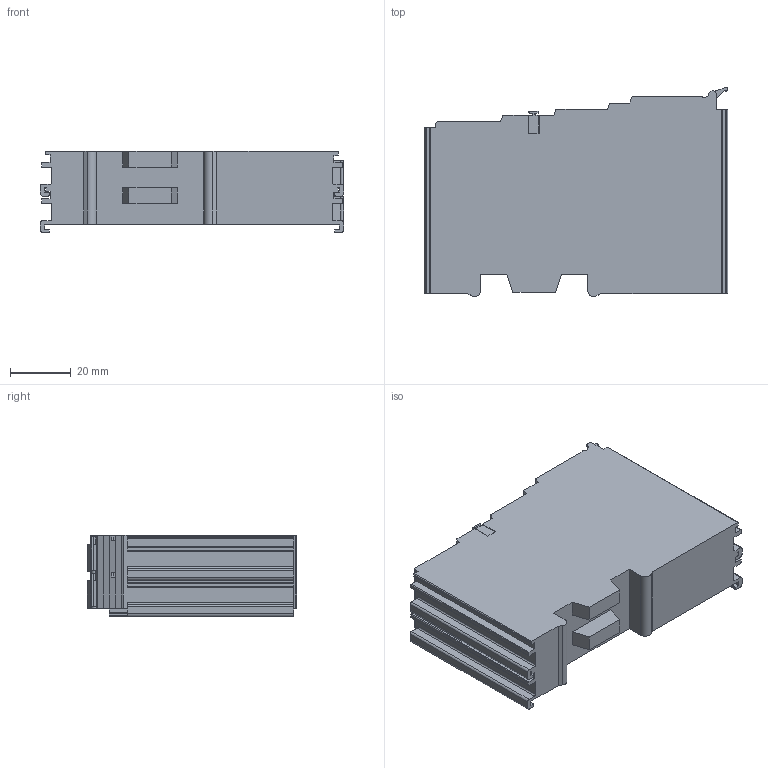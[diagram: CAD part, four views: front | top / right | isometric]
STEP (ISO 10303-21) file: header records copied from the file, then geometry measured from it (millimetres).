
FILE_DESCRIPTION(/* description */ ('EtherCAT-/ Busterminal 24 mm 2 x 16 pin'),/* implementation_level */ '2;1');
FILE_NAME(/* name */ 'E:\ethercat-_busterminal_24mm_2x16_pin.stp',/* time_stamp */ '2021-01-19T13:05:16+01:00',/* author */ ('ChristianPap'),/* organization */ (''),/* preprocessor_version */ 'ST-DEVELOPER v18.1',/* originating_system */ 'Autodesk Inventor 2020',/* authorisation */ '');
FILE_SCHEMA (('CONFIG_CONTROL_DESIGN'));
Length unit declared in the file: millimetre
Products named in the file (1): 0000001564_ELxxxx_16pol_Std_housing_HD24mm_vereinfacht_für_CAD-Do
wnload
Bounding box: 100 x 68.96 x 26.8 mm (x, y, z)
Volume: 133930.4 mm3; surface area: 26360.7 mm2
Topology: 1 solids, 1 shells, 491 faces, 1337 edges, 902 vertices
Faces by surface type: plane 351, cylinder 108, cone 32
Full cylindrical faces by diameter (mm): 3.65 x32
Entity records: 16101 total; most frequent: CARTESIAN_POINT 2731, ORIENTED_EDGE 2674, DIRECTION 2674, EDGE_CURVE 1337, LINE 984, VECTOR 984, VERTEX_POINT 902, AXIS2_PLACEMENT_3D 845
